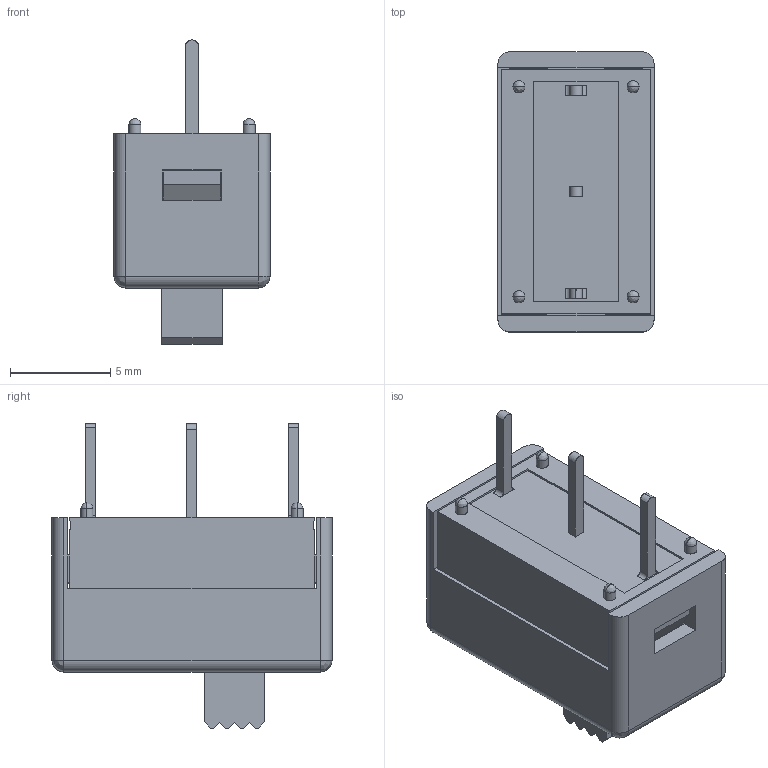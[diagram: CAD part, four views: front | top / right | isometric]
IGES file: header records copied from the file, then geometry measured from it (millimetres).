
Start section: SolidWorks IGES file using analytic representation for surfaces
Global section: file name: G:\重要文件\成品圖\3D圖電子黨(內製)\6系列\6MS1S202M3QES.IGS; native system: SolidWorks 2012; preprocessor: SolidWorks 2012; author: 970704; date: 191021.174258; units: millimetre
Bounding box: 7.8 x 14 x 15.2 mm (x, y, z)
Surface area: 886.1 mm2 (no closed solid volume)
Topology: 0 solids, 0 shells, 139 faces, 912 edges, 900 vertices
Faces by surface type: bspline 107, revolution 32
